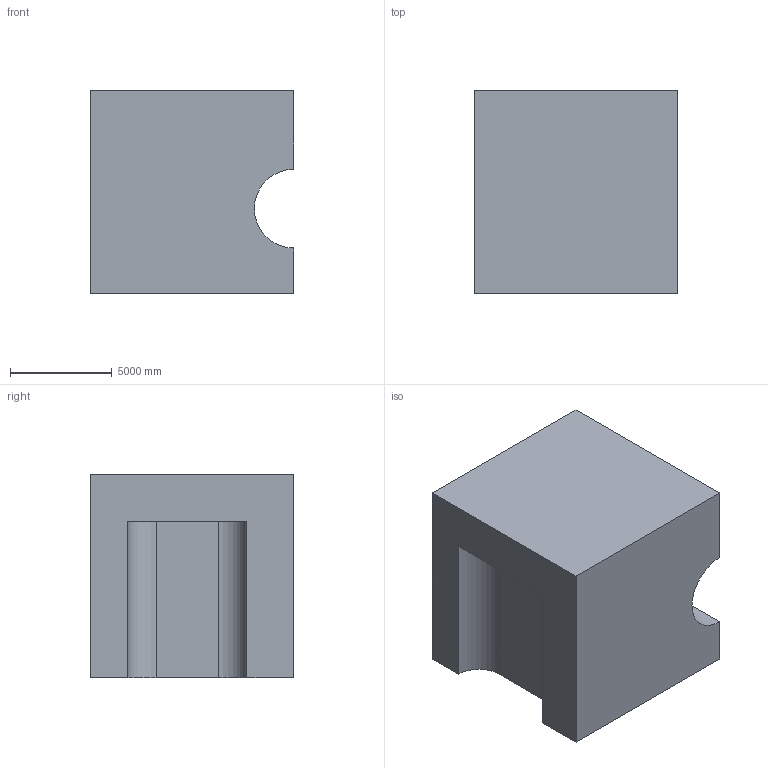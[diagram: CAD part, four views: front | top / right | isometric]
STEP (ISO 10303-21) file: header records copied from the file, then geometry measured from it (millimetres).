
FILE_DESCRIPTION (( 'STEP AP203' ), '1' );
FILE_NAME ('166.STEP', '2022-07-28T13:47:27', ( 'user' ), ( '' ), 'SwSTEP 2.0', 'SolidWorks 2021', '' );
FILE_SCHEMA (( 'CONFIG_CONTROL_DESIGN' ));
Length unit declared in the file: centimetre
Products named in the file (1): 166
Bounding box: 10000 x 10000 x 10000 mm (x, y, z)
Volume: 884091072085.1 mm3; surface area: 622719795.8 mm2
Topology: 1 solids, 1 shells, 12 faces, 30 edges, 20 vertices
Faces by surface type: plane 9, cylinder 3
Entity records: 437 total; most frequent: CARTESIAN_POINT 63, DIRECTION 62, ORIENTED_EDGE 60, EDGE_CURVE 30, LINE 24, VECTOR 24, VERTEX_POINT 20, AXIS2_PLACEMENT_3D 19
